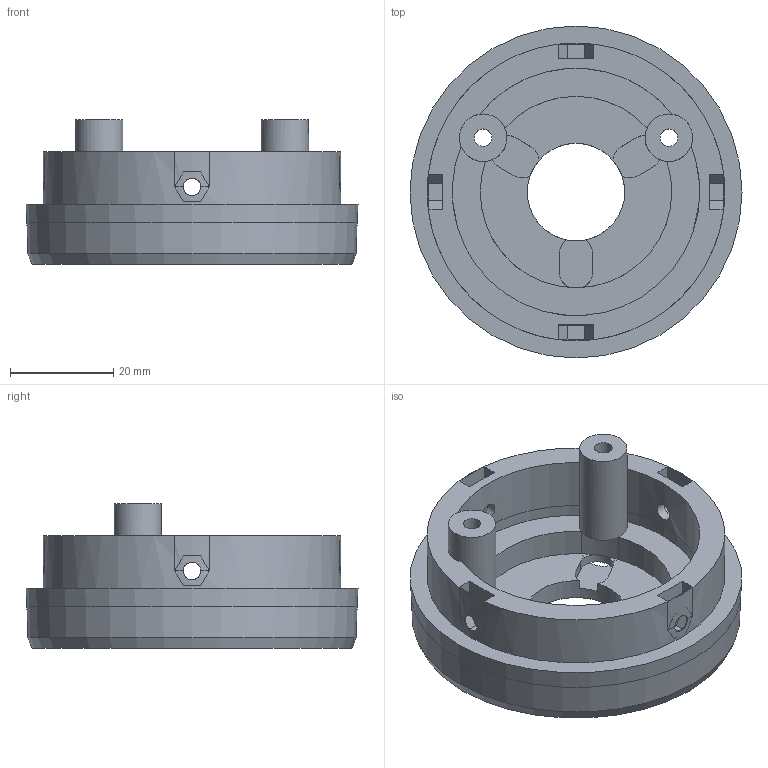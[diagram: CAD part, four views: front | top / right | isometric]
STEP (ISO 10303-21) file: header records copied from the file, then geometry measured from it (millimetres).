
FILE_DESCRIPTION(('FreeCAD Model'),'2;1');
FILE_NAME('Open CASCADE Shape Model','2026-09-19T21:01:32',('FreeCAD'),( 'FreeCAD'),'Open CASCADE STEP processor 7.8','FreeCAD','Unknown');
FILE_SCHEMA(('AUTOMOTIVE_DESIGN { 1 0 10303 214 1 1 1 1 }'));
Length unit declared in the file: millimetre
Products named in the file (1): Open CASCADE STEP translator 7.8 3
Bounding box: 64.36 x 64.36 x 28 mm (x, y, z)
Volume: 34857.8 mm3; surface area: 14723.1 mm2
Topology: 1 solids, 1 shells, 121 faces, 339 edges, 213 vertices
Faces by surface type: plane 82, cylinder 36, cone 3
Full cylindrical faces by diameter (mm): 3.4 x10, 6.5 x2, 9.2 x2, 18.9 x1, 57.7 x1
Entity records: 4310 total; most frequent: CARTESIAN_POINT 1060, DIRECTION 694, ORIENTED_EDGE 678, EDGE_CURVE 339, AXIS2_PLACEMENT_3D 243, VERTEX_POINT 213, LINE 208, VECTOR 208
